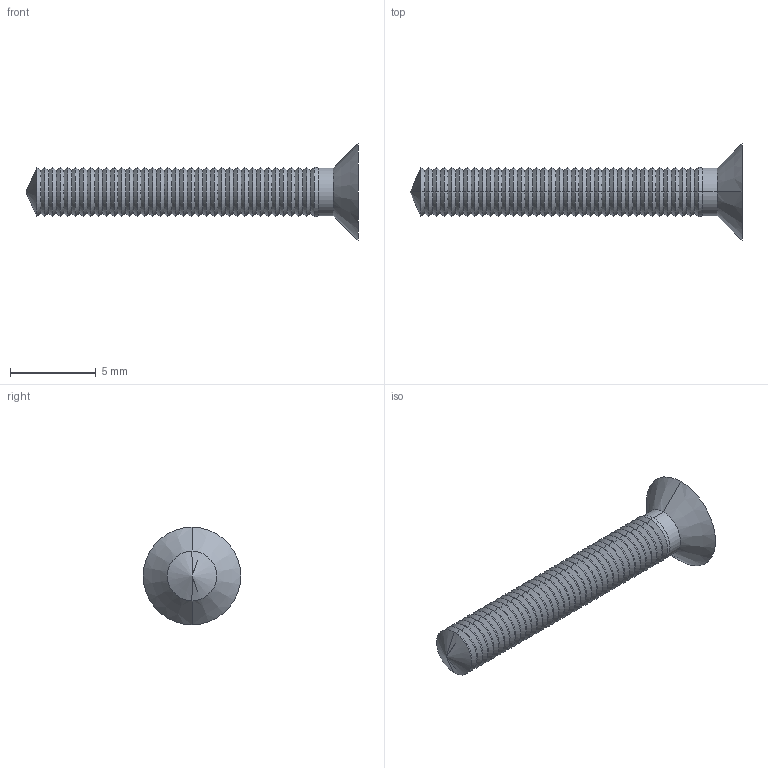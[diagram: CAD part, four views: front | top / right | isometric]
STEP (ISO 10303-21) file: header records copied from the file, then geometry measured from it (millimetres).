
FILE_DESCRIPTION (( 'STEP AP214' ), '1' );
FILE_NAME ('Cargol 2,9x20 PP9.STEP', '2017-07-05T10:08:08', ( 'aaa' ), ( '' ), 'SwSTEP 2.0', 'SolidWorks 2013', '' );
FILE_SCHEMA (( 'AUTOMOTIVE_DESIGN' ));
Length unit declared in the file: millimetre
Products named in the file (1): Cargol 2,9x20 PP9
Bounding box: 19.4 x 5.7 x 5.7 mm (x, y, z)
Volume: 121.6 mm3; surface area: 257.4 mm2
Topology: 1 solids, 1 shells, 166 faces, 342 edges, 177 vertices
Faces by surface type: cone 150, plane 14, cylinder 2
Entity records: 4258 total; most frequent: DIRECTION 826, CARTESIAN_POINT 684, ORIENTED_EDGE 680, EDGE_CURVE 340, AXIS2_PLACEMENT_3D 319, VECTOR 188, LINE 188, VERTEX_POINT 177
